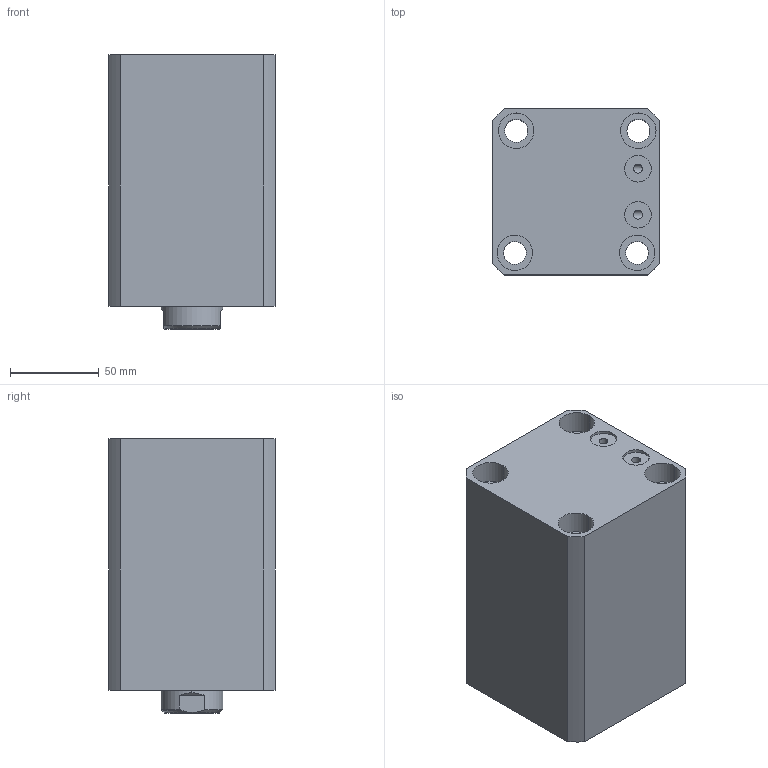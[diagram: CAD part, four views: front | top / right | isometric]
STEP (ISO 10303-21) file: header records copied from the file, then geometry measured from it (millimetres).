
FILE_DESCRIPTION (( 'STEP AP214' ), '1' );
FILE_NAME ('chtb-sdmb63x75n_asm.STEP', '2018-05-16T06:52:52', ( 'Windows' ), ( 'Microsoft' ), 'SwSTEP 2.0', 'SolidWorks 2015', '' );
FILE_SCHEMA (( 'AUTOMOTIVE_DESIGN' ));
Length unit declared in the file: millimetre
Products named in the file (4): CHTB-SDMB63X75NBT; CHTB63X75NHSG; CHTB-63QG; chtb-sdmb63x75n_asm
Assembly tree (3 placements, depth 2):
  chtb-sdmb63x75n_asm
    CHTB-63QG
    CHTB63X75NHSG
    CHTB-SDMB63X75NBT
Bounding box: 94 x 94 x 155 mm (x, y, z)
Volume: 987031.4 mm3; surface area: 166299.8 mm2
Topology: 3 solids, 3 shells, 164 faces, 468 edges, 318 vertices
Faces by surface type: cylinder 107, plane 30, bspline 12, cone 8, torus 7
Entity records: 17708 total; most frequent: CARTESIAN_POINT 13594, ORIENTED_EDGE 924, DIRECTION 707, EDGE_CURVE 462, VERTEX_POINT 318, AXIS2_PLACEMENT_3D 284, EDGE_LOOP 196, FACE_OUTER_BOUND 164
